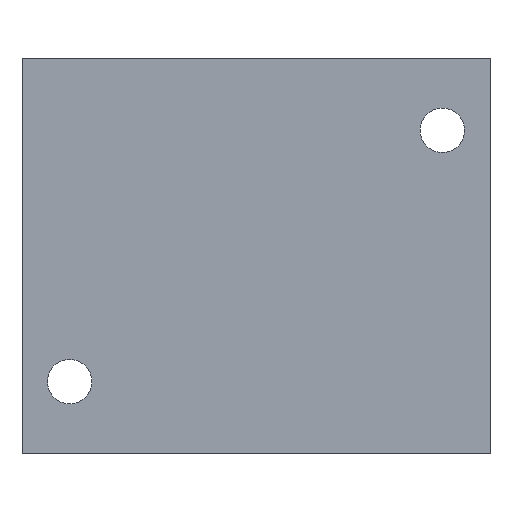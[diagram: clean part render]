
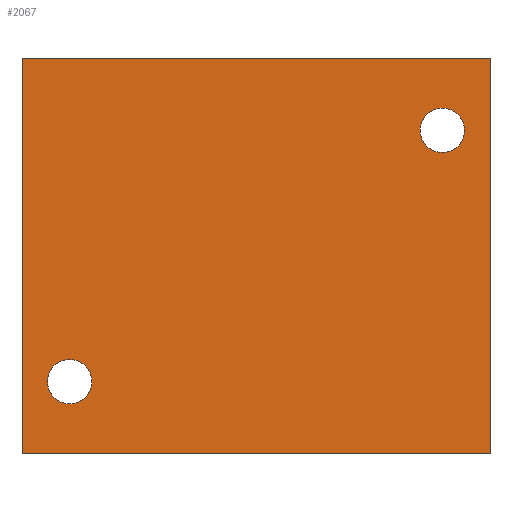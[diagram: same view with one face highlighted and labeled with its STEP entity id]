
A CAD part, front view. The second image highlights one B-rep face of the part: STEP entity #2067.
In plain terms, the highlighted planar face has unit normal (0, -1, 0).
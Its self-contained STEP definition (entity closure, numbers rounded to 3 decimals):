
#100 = EDGE_CURVE ( 'NONE', #1786, #360, #1117, .T. ) ;
#126 = EDGE_LOOP ( 'NONE', ( #386, #1941, #183, #1358 ) ) ;
#170 = DIRECTION ( 'NONE',  ( 0., -1., 0. ) ) ;
#183 = ORIENTED_EDGE ( 'NONE', *, *, #2169, .F. ) ;
#240 = FACE_BOUND ( 'NONE', #1243, .T. ) ;
#249 = CARTESIAN_POINT ( 'NONE',  ( -54., -45., -45.5 ) ) ;
#260 = EDGE_CURVE ( 'NONE', #264, #1206, #1828, .T. ) ;
#264 = VERTEX_POINT ( 'NONE', #1633 ) ;
#268 = DIRECTION ( 'NONE',  ( 0., 0., -1. ) ) ;
#274 = VERTEX_POINT ( 'NONE', #485 ) ;
#276 = ORIENTED_EDGE ( 'NONE', *, *, #500, .F. ) ;
#288 = VECTOR ( 'NONE', #338, 1000. ) ;
#338 = DIRECTION ( 'NONE',  ( 1., 0., 0. ) ) ;
#360 = VERTEX_POINT ( 'NONE', #1561 ) ;
#386 = ORIENTED_EDGE ( 'NONE', *, *, #1679, .T. ) ;
#418 = DIRECTION ( 'NONE',  ( 0., 0., -1. ) ) ;
#443 = DIRECTION ( 'NONE',  ( 0., 0., -1. ) ) ;
#483 = FACE_BOUND ( 'NONE', #800, .T. ) ;
#485 = CARTESIAN_POINT ( 'NONE',  ( 54., -45., -45.5 ) ) ;
#489 = CIRCLE ( 'NONE', #1800, 5.15 ) ;
#500 = EDGE_CURVE ( 'NONE', #1302, #1410, #1454, .T. ) ;
#532 = ORIENTED_EDGE ( 'NONE', *, *, #736, .F. ) ;
#587 = EDGE_CURVE ( 'NONE', #360, #1786, #489, .T. ) ;
#588 = ORIENTED_EDGE ( 'NONE', *, *, #100, .F. ) ;
#602 = VECTOR ( 'NONE', #443, 1000. ) ;
#613 = CARTESIAN_POINT ( 'NONE',  ( -54., -45., -45.5 ) ) ;
#619 = PLANE ( 'NONE',  #1853 ) ;
#637 = VECTOR ( 'NONE', #1984, 1000. ) ;
#671 = CARTESIAN_POINT ( 'NONE',  ( -43., -45., -23.85 ) ) ;
#697 = AXIS2_PLACEMENT_3D ( 'NONE', #1774, #965, #418 ) ;
#727 = DIRECTION ( 'NONE',  ( 0., 0., -1. ) ) ;
#735 = CARTESIAN_POINT ( 'NONE',  ( -43., -45., -34.15 ) ) ;
#736 = EDGE_CURVE ( 'NONE', #1410, #1302, #1066, .T. ) ;
#800 = EDGE_LOOP ( 'NONE', ( #532, #276 ) ) ;
#923 = CARTESIAN_POINT ( 'NONE',  ( -54., -45., 45.5 ) ) ;
#965 = DIRECTION ( 'NONE',  ( 0., -1., 0. ) ) ;
#966 = CARTESIAN_POINT ( 'NONE',  ( -54., -45., 45.5 ) ) ;
#967 = LINE ( 'NONE', #1807, #602 ) ;
#983 = DIRECTION ( 'NONE',  ( 0., 0., 1. ) ) ;
#1013 = CARTESIAN_POINT ( 'NONE',  ( -54., -45., 45.5 ) ) ;
#1060 = AXIS2_PLACEMENT_3D ( 'NONE', #1415, #1403, #727 ) ;
#1066 = CIRCLE ( 'NONE', #697, 5.15 ) ;
#1117 = CIRCLE ( 'NONE', #2000, 5.15 ) ;
#1149 = VERTEX_POINT ( 'NONE', #1955 ) ;
#1164 = DIRECTION ( 'NONE',  ( 0., 1., 0. ) ) ;
#1206 = VERTEX_POINT ( 'NONE', #249 ) ;
#1243 = EDGE_LOOP ( 'NONE', ( #2096, #588 ) ) ;
#1302 = VERTEX_POINT ( 'NONE', #671 ) ;
#1311 = LINE ( 'NONE', #613, #637 ) ;
#1358 = ORIENTED_EDGE ( 'NONE', *, *, #260, .T. ) ;
#1374 = VECTOR ( 'NONE', #1983, 1000. ) ;
#1403 = DIRECTION ( 'NONE',  ( 0., -1., 0. ) ) ;
#1410 = VERTEX_POINT ( 'NONE', #735 ) ;
#1415 = CARTESIAN_POINT ( 'NONE',  ( -43., -45., -29. ) ) ;
#1454 = CIRCLE ( 'NONE', #1060, 5.15 ) ;
#1531 = DIRECTION ( 'NONE',  ( 0., 0., -1. ) ) ;
#1546 = LINE ( 'NONE', #1013, #288 ) ;
#1561 = CARTESIAN_POINT ( 'NONE',  ( 43., -45., 23.85 ) ) ;
#1633 = CARTESIAN_POINT ( 'NONE',  ( -54., -45., 45.5 ) ) ;
#1679 = EDGE_CURVE ( 'NONE', #1206, #274, #1311, .T. ) ;
#1696 = CARTESIAN_POINT ( 'NONE',  ( 43., -45., 29. ) ) ;
#1703 = EDGE_CURVE ( 'NONE', #1149, #274, #967, .T. ) ;
#1774 = CARTESIAN_POINT ( 'NONE',  ( -43., -45., -29. ) ) ;
#1785 = CARTESIAN_POINT ( 'NONE',  ( 43., -45., 34.15 ) ) ;
#1786 = VERTEX_POINT ( 'NONE', #1785 ) ;
#1800 = AXIS2_PLACEMENT_3D ( 'NONE', #2138, #2115, #268 ) ;
#1807 = CARTESIAN_POINT ( 'NONE',  ( 54., -45., 45.5 ) ) ;
#1828 = LINE ( 'NONE', #966, #1374 ) ;
#1853 = AXIS2_PLACEMENT_3D ( 'NONE', #923, #1164, #983 ) ;
#1941 = ORIENTED_EDGE ( 'NONE', *, *, #1703, .F. ) ;
#1955 = CARTESIAN_POINT ( 'NONE',  ( 54., -45., 45.5 ) ) ;
#1983 = DIRECTION ( 'NONE',  ( 0., 0., -1. ) ) ;
#1984 = DIRECTION ( 'NONE',  ( 1., 0., 0. ) ) ;
#2000 = AXIS2_PLACEMENT_3D ( 'NONE', #1696, #170, #1531 ) ;
#2067 = ADVANCED_FACE ( 'NONE', ( #2135, #483, #240 ), #619, .F. ) ;
#2096 = ORIENTED_EDGE ( 'NONE', *, *, #587, .F. ) ;
#2115 = DIRECTION ( 'NONE',  ( 0., -1., 0. ) ) ;
#2135 = FACE_OUTER_BOUND ( 'NONE', #126, .T. ) ;
#2138 = CARTESIAN_POINT ( 'NONE',  ( 43., -45., 29. ) ) ;
#2169 = EDGE_CURVE ( 'NONE', #264, #1149, #1546, .T. ) ;
